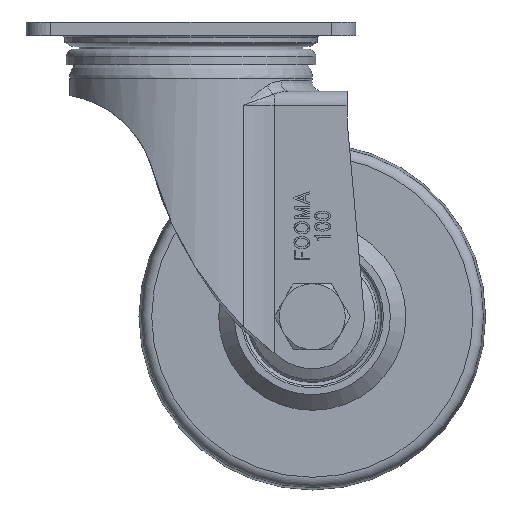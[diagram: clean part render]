
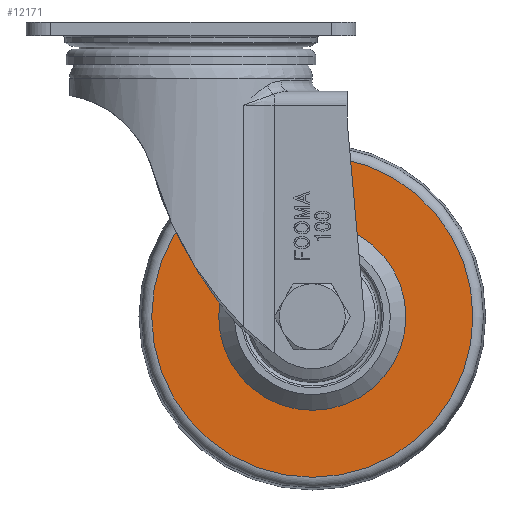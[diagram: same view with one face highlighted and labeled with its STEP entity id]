
A CAD part, left-side view. The second image highlights one B-rep face of the part: STEP entity #12171.
In plain terms, the highlighted planar face has unit normal (-1, 0, 0).
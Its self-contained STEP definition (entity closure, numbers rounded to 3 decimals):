
#3296=PLANE('',#12908);
#3689=FACE_BOUND('',#4556,.T.);
#3840=FACE_OUTER_BOUND('',#4555,.T.);
#4555=EDGE_LOOP('',(#8657));
#4556=EDGE_LOOP('',(#8658));
#5397=CIRCLE('',#12891,27.);
#5406=CIRCLE('',#12907,46.332);
#5711=VERTEX_POINT('',#16671);
#5720=VERTEX_POINT('',#16696);
#6894=EDGE_CURVE('',#5711,#5711,#5397,.T.);
#6903=EDGE_CURVE('',#5720,#5720,#5406,.T.);
#8657=ORIENTED_EDGE('',*,*,#6903,.T.);
#8658=ORIENTED_EDGE('',*,*,#6894,.F.);
#12171=ADVANCED_FACE('',(#3840,#3689),#3296,.T.);
#12891=AXIS2_PLACEMENT_3D('',#16672,#13866,#13867);
#12907=AXIS2_PLACEMENT_3D('',#16697,#13898,#13899);
#12908=AXIS2_PLACEMENT_3D('',#16698,#13900,#13901);
#13866=DIRECTION('center_axis',(-1.,0.,0.));
#13867=DIRECTION('ref_axis',(0.,0.,1.));
#13898=DIRECTION('center_axis',(-1.,0.,0.));
#13899=DIRECTION('ref_axis',(0.,0.,1.));
#13900=DIRECTION('center_axis',(-1.,0.,0.));
#13901=DIRECTION('ref_axis',(0.,0.,1.));
#16671=CARTESIAN_POINT('',(-17.5,-35.,-58.));
#16672=CARTESIAN_POINT('Origin',(-17.5,-35.,-85.));
#16696=CARTESIAN_POINT('',(-17.5,-35.,-38.668));
#16697=CARTESIAN_POINT('Origin',(-17.5,-35.,-85.));
#16698=CARTESIAN_POINT('Origin',(-17.5,-35.,-58.));
